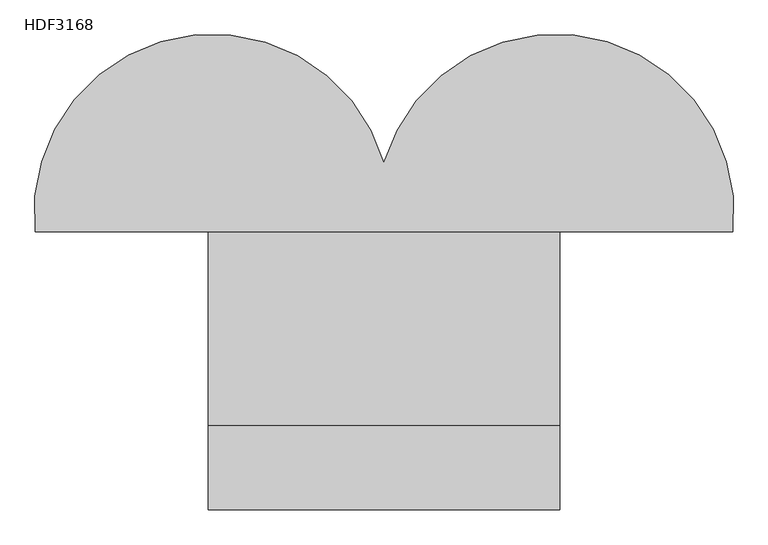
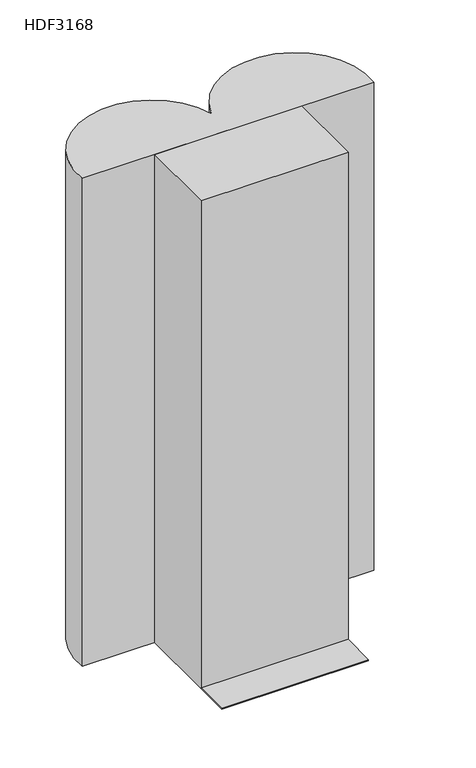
"""IFC4 building model written with IfcOpenShell, lengths in millimetres: electric appliance geometry, Data_Device-Network-Leviton-HDF3168 : HDF3168."""

from ifc_helpers import new_model, si_unit, point, frame_2d, origin, origin_with_axes, place, context, project, spatial, polyline, circle_curve, trimmed, segment, composite_curve, outline, extrude, source, transform, mapped, element, save


def hdf3168_86211367(model_context):
    return source(origin(), model_context, "Body", "SweptSolid", [
        extrude(outline(composite_curve([segment(polyline([(579.8239, 488.7032309), (-625.8741, 488.7032309)]), True, "CONTINUOUS"), segment(trimmed(circle_curve(frame_2d((-319.2251, 521.634231)), 308.4121592), [point((-625.8741, 488.7032309))], [point((-23.0251, 607.5622239))], False, "CARTESIAN"), True, "CONTINUOUS"), segment(trimmed(circle_curve(frame_2d((273.1749, 521.634231)), 308.4121592), [point((-23.0251, 607.5622239))], [point((579.8239, 488.7032309))], False, "CARTESIAN"), True, "CONTINUOUS")], self_intersect=False)), origin_with_axes(), (0.0, 0.0, 1.0), 2136.25684),
        extrude(outline(polyline([(281.1399, 154.2415), (281.1399, 8.0645), (-327.1901, 8.0645), (-327.1901, 154.2415), (281.1399, 154.2415)])), origin_with_axes(), (0.0, 0.0, 1.0), 4.1656),
        extrude(outline(polyline([(281.1399, 511.1115), (281.1399, 154.2415), (-327.1901, 154.2415), (-327.1901, 511.1115), (281.1399, 511.1115)])), origin_with_axes(), (0.0, 0.0, 1.0), 2136.25684),
    ])


if __name__ == "__main__":
    model = new_model("IFC4")
    model_context = context("Model", 3, world=origin())
    ifc_project = project(units=[si_unit("LENGTHUNIT", "METRE", prefix="MILLI")], contexts=[model_context])
    site = spatial("IfcSite", under=ifc_project)
    building = spatial("IfcBuilding", under=site)
    placement = place(None, origin())
    hdf3168_shape = hdf3168_86211367(model_context)
    element("IfcElectricAppliance", 1, ObjectType="Data_Device-Network-Leviton-HDF3168 : HDF3168", at=placement, inside=building, context=model_context, shape_type="MappedRepresentation", body=[
        mapped(hdf3168_shape, transform((0.0, 0.0, 0.0), x_axis=(1.0, 0.0, 0.0), y_axis=(0.0, 1.0, 0.0), z_axis=(0.0, 0.0, 1.0))),
    ])
    save(model, "model.ifc")
